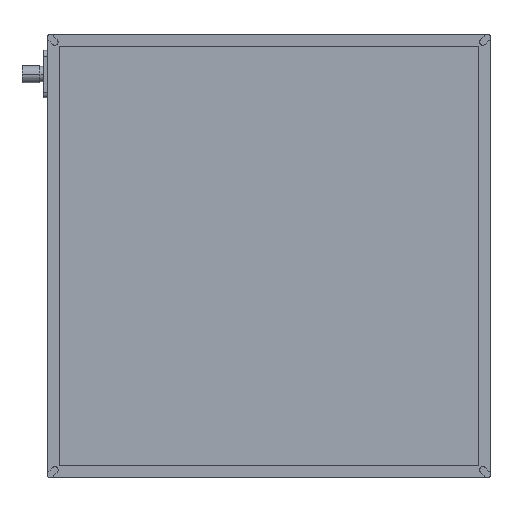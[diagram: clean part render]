
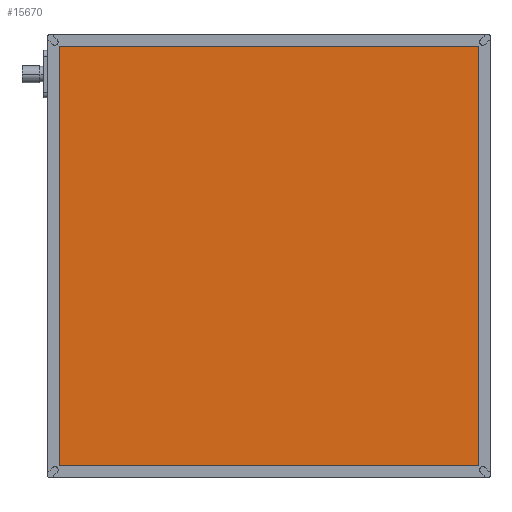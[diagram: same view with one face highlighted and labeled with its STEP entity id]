
A CAD part, top view. The second image highlights one B-rep face of the part: STEP entity #15670.
In plain terms, the highlighted planar face has unit normal (0, 0, 1).
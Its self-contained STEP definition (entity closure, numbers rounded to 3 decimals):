
#1592 = DIRECTION ( 'NONE',  ( 1., 0., 0. ) ) ;
#1848 = ORIENTED_EDGE ( 'NONE', *, *, #4053, .T. ) ;
#2271 = AXIS2_PLACEMENT_3D ( 'NONE', #15461, #8862, #3009 ) ;
#2333 = VERTEX_POINT ( 'NONE', #6644 ) ;
#3009 = DIRECTION ( 'NONE',  ( -1., 0., 0. ) ) ;
#3107 = ORIENTED_EDGE ( 'NONE', *, *, #14413, .T. ) ;
#3375 = EDGE_CURVE ( 'NONE', #9351, #2333, #15432, .T. ) ;
#3771 = DIRECTION ( 'NONE',  ( -1., 0., 0. ) ) ;
#4053 = EDGE_CURVE ( 'NONE', #9356, #9351, #7846, .T. ) ;
#4177 = DIRECTION ( 'NONE',  ( 0., 1., 0. ) ) ;
#5361 = EDGE_LOOP ( 'NONE', ( #6889, #1848, #10670, #3107 ) ) ;
#5599 = EDGE_CURVE ( 'NONE', #12517, #9356, #13465, .T. ) ;
#6202 = FACE_OUTER_BOUND ( 'NONE', #5361, .T. ) ;
#6476 = CARTESIAN_POINT ( 'NONE',  ( 0., 296., 41.85 ) ) ;
#6644 = CARTESIAN_POINT ( 'NONE',  ( 4., 4., 41.85 ) ) ;
#6889 = ORIENTED_EDGE ( 'NONE', *, *, #5599, .T. ) ;
#6904 = CARTESIAN_POINT ( 'NONE',  ( 296., 296., 41.85 ) ) ;
#7786 = VECTOR ( 'NONE', #4177, 1000. ) ;
#7846 = LINE ( 'NONE', #6476, #11375 ) ;
#8331 = CARTESIAN_POINT ( 'NONE',  ( 296., 0., 41.85 ) ) ;
#8862 = DIRECTION ( 'NONE',  ( 0., 0., -1. ) ) ;
#9351 = VERTEX_POINT ( 'NONE', #13491 ) ;
#9356 = VERTEX_POINT ( 'NONE', #6904 ) ;
#9582 = CARTESIAN_POINT ( 'NONE',  ( 0., 4., 41.85 ) ) ;
#10228 = CARTESIAN_POINT ( 'NONE',  ( 4., 0., 41.85 ) ) ;
#10600 = CARTESIAN_POINT ( 'NONE',  ( 296., 4., 41.85 ) ) ;
#10670 = ORIENTED_EDGE ( 'NONE', *, *, #3375, .T. ) ;
#11375 = VECTOR ( 'NONE', #3771, 1000. ) ;
#12517 = VERTEX_POINT ( 'NONE', #10600 ) ;
#13465 = LINE ( 'NONE', #8331, #7786 ) ;
#13491 = CARTESIAN_POINT ( 'NONE',  ( 4., 296., 41.85 ) ) ;
#13668 = VECTOR ( 'NONE', #14049, 1000. ) ;
#14049 = DIRECTION ( 'NONE',  ( 0., -1., 0. ) ) ;
#14413 = EDGE_CURVE ( 'NONE', #2333, #12517, #14790, .T. ) ;
#14790 = LINE ( 'NONE', #9582, #16373 ) ;
#15432 = LINE ( 'NONE', #10228, #13668 ) ;
#15461 = CARTESIAN_POINT ( 'NONE',  ( 0., 0., 41.85 ) ) ;
#15670 = ADVANCED_FACE ( 'NONE', ( #6202 ), #16758, .F. ) ;
#16373 = VECTOR ( 'NONE', #1592, 1000. ) ;
#16758 = PLANE ( 'NONE',  #2271 ) ;
